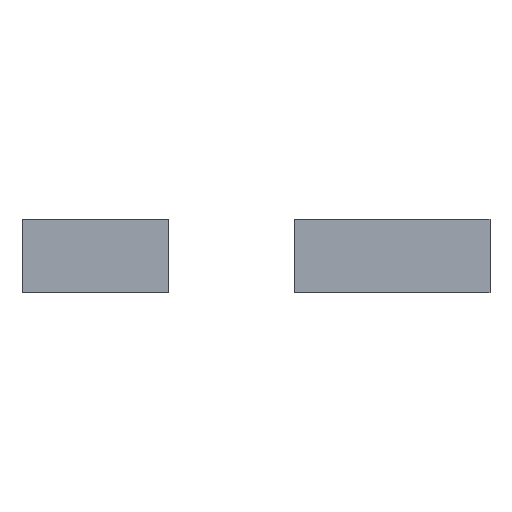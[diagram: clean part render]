
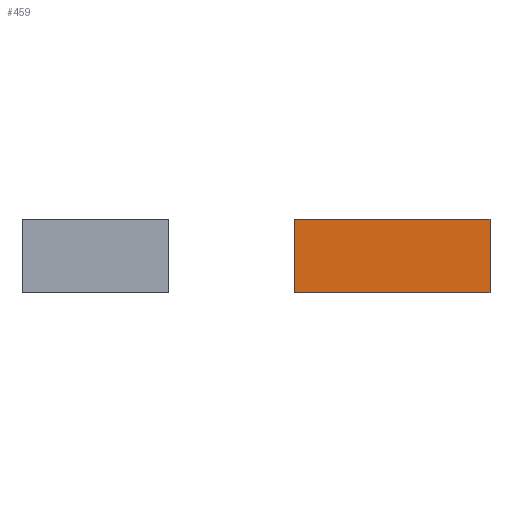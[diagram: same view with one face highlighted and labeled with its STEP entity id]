
A CAD part, top view. The second image highlights one B-rep face of the part: STEP entity #459.
In plain terms, the highlighted planar face has unit normal (0, 0, 1).
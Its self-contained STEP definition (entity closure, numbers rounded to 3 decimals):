
#459=ADVANCED_FACE('',(#651),#2763,.T.);
#651=FACE_OUTER_BOUND('',#843,.T.);
#843=EDGE_LOOP('',(#1068,#1069,#1070,#1071));
#1068=ORIENTED_EDGE('',*,*,#1902,.T.);
#1069=ORIENTED_EDGE('',*,*,#1906,.T.);
#1070=ORIENTED_EDGE('',*,*,#1909,.T.);
#1071=ORIENTED_EDGE('',*,*,#1911,.T.);
#1902=EDGE_CURVE('',#2475,#2474,#2334,.T.);
#1906=EDGE_CURVE('',#2474,#2477,#2338,.T.);
#1909=EDGE_CURVE('',#2477,#2479,#2341,.T.);
#1911=EDGE_CURVE('',#2479,#2475,#2343,.T.);
#2334=B_SPLINE_CURVE_WITH_KNOTS('',1,(#3178,#3179),.UNSPECIFIED.,.F.,.F.,
(2,2),(0.,1600.),.UNSPECIFIED.);
#2338=B_SPLINE_CURVE_WITH_KNOTS('',1,(#3186,#3187),.UNSPECIFIED.,.F.,.F.,
(2,2),(1600.,2200.),.UNSPECIFIED.);
#2341=B_SPLINE_CURVE_WITH_KNOTS('',1,(#3192,#3193),.UNSPECIFIED.,.F.,.F.,
(2,2),(2200.,3800.),.UNSPECIFIED.);
#2343=B_SPLINE_CURVE_WITH_KNOTS('',1,(#3196,#3197),.UNSPECIFIED.,.F.,.F.,
(2,2),(3800.,4400.),.UNSPECIFIED.);
#2474=VERTEX_POINT('',#3168);
#2475=VERTEX_POINT('',#3169);
#2477=VERTEX_POINT('',#3171);
#2479=VERTEX_POINT('',#3173);
#2763=PLANE('',#2943);
#2943=AXIS2_PLACEMENT_3D('',#3165,#3038,$);
#3038=DIRECTION('',(0.,0.,1.));
#3165=CARTESIAN_POINT('',(3354.332,114.139,740.017));
#3168=CARTESIAN_POINT('',(4954.332,114.139,740.017));
#3169=CARTESIAN_POINT('',(3354.332,114.139,740.017));
#3171=CARTESIAN_POINT('',(4954.332,714.139,740.017));
#3173=CARTESIAN_POINT('',(3354.332,714.139,740.017));
#3178=CARTESIAN_POINT('',(3354.332,114.139,740.017));
#3179=CARTESIAN_POINT('',(4954.332,114.139,740.017));
#3186=CARTESIAN_POINT('',(4954.332,114.139,740.017));
#3187=CARTESIAN_POINT('',(4954.332,714.139,740.017));
#3192=CARTESIAN_POINT('',(4954.332,714.139,740.017));
#3193=CARTESIAN_POINT('',(3354.332,714.139,740.017));
#3196=CARTESIAN_POINT('',(3354.332,714.139,740.017));
#3197=CARTESIAN_POINT('',(3354.332,114.139,740.017));
